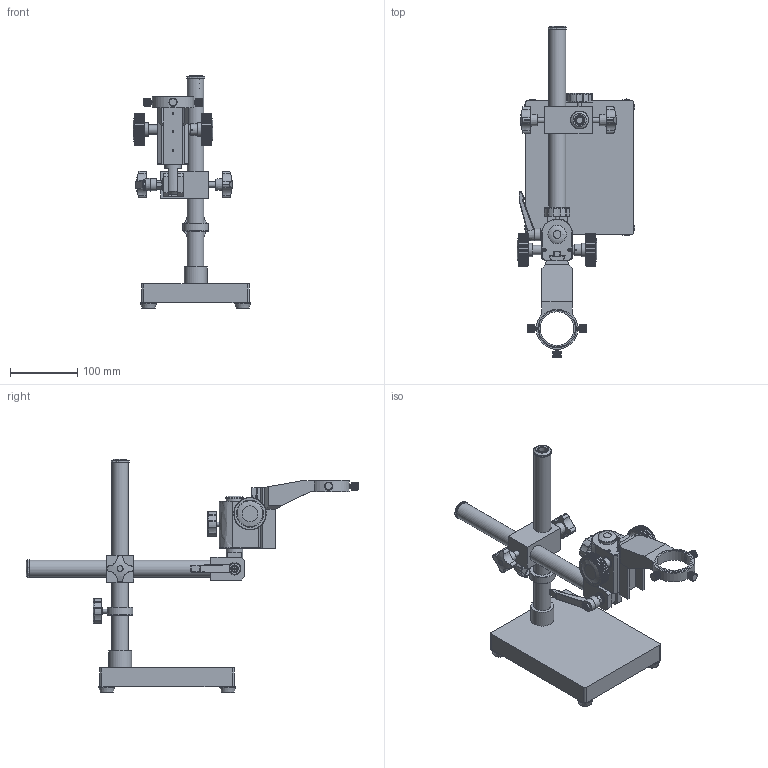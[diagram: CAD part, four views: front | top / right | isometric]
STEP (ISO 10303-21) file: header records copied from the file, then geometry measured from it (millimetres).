
FILE_DESCRIPTION(('STEP AP214'),'1');
FILE_NAME('GR-STD10HB.stp','2026-04-22T01:39:24',(' '),(' '),'Spatial InterOp 3D',' ',' ');
FILE_SCHEMA(('AUTOMOTIVE_DESIGN { 1 0 10303 214 1 1 1 1 }'));
Length unit declared in the file: metre
Products named in the file (6): GR-STD10HB; Component1; Component2; Component3; Component4; Component5
Assembly tree (5 placements, depth 2):
  GR-STD10HB
    Component1
    Component2
    Component3
    Component4
    Component5
Bounding box: 174.29 x 493.49 x 346.9 mm (x, y, z)
Volume: 1533823.7 mm3; surface area: 334217.1 mm2
Topology: 12 solids, 17 shells, 3437 faces, 8236 edges, 4981 vertices
Faces by surface type: plane 2477, cylinder 679, bspline 153, torus 71, cone 51, sphere 6
Full cylindrical faces by diameter (mm): 1.5 x4, 2.5 x3, 3 x8, 3.1 x4, 3.9 x2, 4 x4, 4.6 x3, 4.8 x3, 5 x5, 5.5 x3, 5.7 x3, 5.8 x1, 6 x2, 6.5 x1, 6.9 x1, 7 x2, 8 x4, 8.3 x5, 8.5 x4, 9.3 x1, 9.8 x3, 9.9 x2, 10 x4, 11 x1, 11.7 x7, 12.1 x1, 12.4 x1, 12.8 x1, 12.9 x1, 13.1 x1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
Entity records: 216226 total; most frequent: CARTESIAN_POINT 70818, DIRECTION 16192, ORIENTED_EDGE 15788, STYLED_ITEM 11343, PRESENTATION_STYLE_ASSIGNMENT 11343, COLOUR_RGB 11343, EDGE_CURVE 7894, CURVE_STYLE 7894
